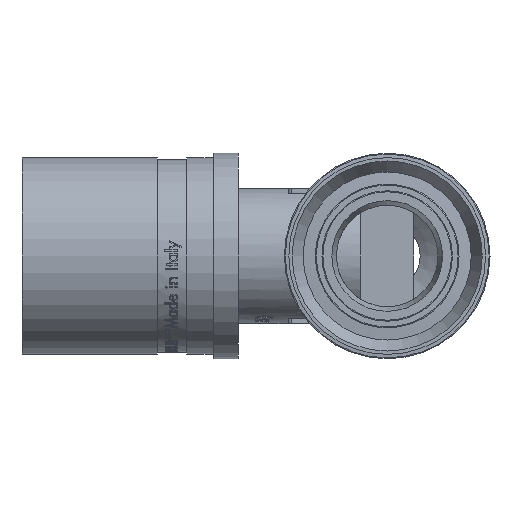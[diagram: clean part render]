
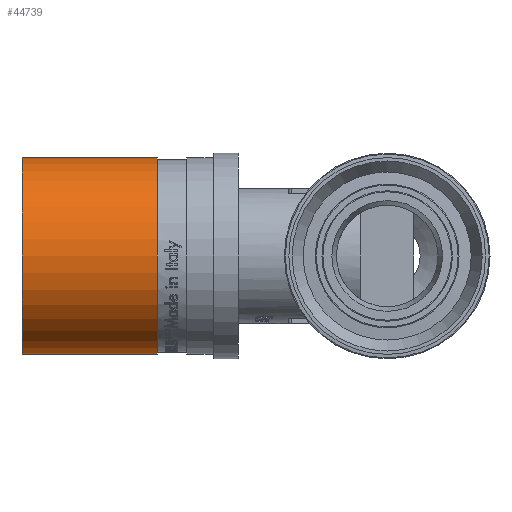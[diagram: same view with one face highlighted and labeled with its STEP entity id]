
A CAD part, left-side view. The second image highlights one B-rep face of the part: STEP entity #44739.
In plain terms, the highlighted cylindrical face has radius 14.925 mm (diameter 29.85 mm), a full revolution.
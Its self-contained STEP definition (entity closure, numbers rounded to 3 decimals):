
#305=CYLINDRICAL_SURFACE('',#46971,14.925);
#972=CIRCLE('',#46972,14.925);
#973=CIRCLE('',#46973,14.925);
#974=CIRCLE('',#46974,14.925);
#975=CIRCLE('',#46975,14.925);
#7341=FACE_OUTER_BOUND('',#9990,.T.);
#9990=EDGE_LOOP('',(#37816,#37817,#37818,#37819,#37820,#37821));
#13127=LINE('',#89311,#16218);
#16218=VECTOR('',#53118,14.925);
#20188=VERTEX_POINT('',#89306);
#20189=VERTEX_POINT('',#89307);
#20190=VERTEX_POINT('',#89310);
#20191=VERTEX_POINT('',#89312);
#26353=EDGE_CURVE('',#20188,#20189,#972,.T.);
#26354=EDGE_CURVE('',#20189,#20188,#973,.T.);
#26355=EDGE_CURVE('',#20189,#20190,#13127,.T.);
#26356=EDGE_CURVE('',#20190,#20191,#974,.T.);
#26357=EDGE_CURVE('',#20191,#20190,#975,.T.);
#37816=ORIENTED_EDGE('',*,*,#26353,.F.);
#37817=ORIENTED_EDGE('',*,*,#26354,.F.);
#37818=ORIENTED_EDGE('',*,*,#26355,.T.);
#37819=ORIENTED_EDGE('',*,*,#26356,.T.);
#37820=ORIENTED_EDGE('',*,*,#26357,.T.);
#37821=ORIENTED_EDGE('',*,*,#26355,.F.);
#44739=ADVANCED_FACE('',(#7341),#305,.T.);
#46971=AXIS2_PLACEMENT_3D('',#89305,#53112,#53113);
#46972=AXIS2_PLACEMENT_3D('',#89308,#53114,#53115);
#46973=AXIS2_PLACEMENT_3D('',#89309,#53116,#53117);
#46974=AXIS2_PLACEMENT_3D('',#89313,#53119,#53120);
#46975=AXIS2_PLACEMENT_3D('',#89314,#53121,#53122);
#53112=DIRECTION('center_axis',(0.,-1.,0.));
#53113=DIRECTION('ref_axis',(1.,0.,0.));
#53114=DIRECTION('center_axis',(0.,-1.,0.));
#53115=DIRECTION('ref_axis',(0.,0.,-1.));
#53116=DIRECTION('center_axis',(0.,-1.,0.));
#53117=DIRECTION('ref_axis',(0.,0.,-1.));
#53118=DIRECTION('',(0.,1.,0.));
#53119=DIRECTION('center_axis',(0.,-1.,0.));
#53120=DIRECTION('ref_axis',(0.,0.,-1.));
#53121=DIRECTION('center_axis',(0.,-1.,0.));
#53122=DIRECTION('ref_axis',(0.,0.,-1.));
#89305=CARTESIAN_POINT('Origin',(0.,45.162,
0.));
#89306=CARTESIAN_POINT('',(14.925,34.912,0.));
#89307=CARTESIAN_POINT('',(-14.925,34.912,0.));
#89308=CARTESIAN_POINT('Origin',(0.,34.912,
0.));
#89309=CARTESIAN_POINT('Origin',(0.,34.912,
0.));
#89310=CARTESIAN_POINT('',(-14.925,55.412,0.));
#89311=CARTESIAN_POINT('',(-14.925,45.162,0.));
#89312=CARTESIAN_POINT('',(14.925,55.412,0.));
#89313=CARTESIAN_POINT('Origin',(0.,55.412,
0.));
#89314=CARTESIAN_POINT('Origin',(0.,55.412,
0.));
